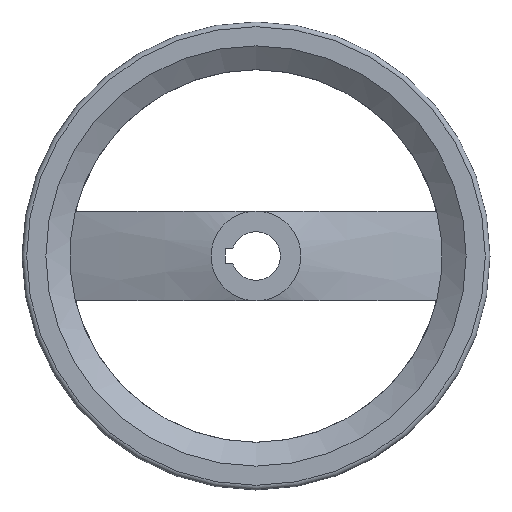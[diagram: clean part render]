
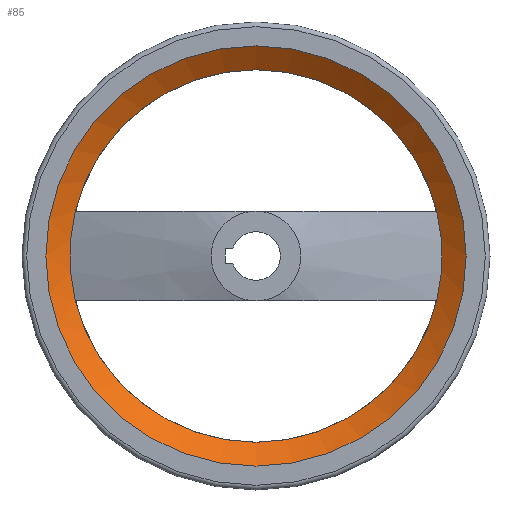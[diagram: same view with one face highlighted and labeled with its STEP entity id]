
A CAD part, left-side view. The second image highlights one B-rep face of the part: STEP entity #85.
In plain terms, the highlighted conical face has half-angle 54.129 degrees and reference radius 99.5 mm.
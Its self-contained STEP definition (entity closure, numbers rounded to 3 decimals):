
#85 = ADVANCED_FACE( '', ( #122, #123 ), #124, .F. );
#122 = FACE_OUTER_BOUND( '', #178, .T. );
#123 = FACE_BOUND( '', #179, .T. );
#124 = CONICAL_SURFACE( '', #180, 99.5, 0.945 );
#178 = EDGE_LOOP( '', ( #282 ) );
#179 = EDGE_LOOP( '', ( #283, #284, #285, #286 ) );
#180 = AXIS2_PLACEMENT_3D( '', #287, #288, #289 );
#282 = ORIENTED_EDGE( '', *, *, #388, .T. );
#283 = ORIENTED_EDGE( '', *, *, #389, .F. );
#284 = ORIENTED_EDGE( '', *, *, #390, .T. );
#285 = ORIENTED_EDGE( '', *, *, #391, .F. );
#286 = ORIENTED_EDGE( '', *, *, #392, .T. );
#287 = CARTESIAN_POINT( '', ( 37.22, 0., 0. ) );
#288 = DIRECTION( '', ( -1., 0., 0. ) );
#289 = DIRECTION( '', ( 0., 0., 1. ) );
#388 = EDGE_CURVE( '', #450, #450, #451, .T. );
#389 = EDGE_CURVE( '', #452, #406, #453, .T. );
#390 = EDGE_CURVE( '', #452, #454, #455, .F. );
#391 = EDGE_CURVE( '', #412, #454, #456, .T. );
#392 = EDGE_CURVE( '', #412, #406, #457, .F. );
#406 = VERTEX_POINT( '', #478 );
#412 = VERTEX_POINT( '', #521 );
#450 = VERTEX_POINT( '', #631 );
#451 = CIRCLE( '', #632, 112.25 );
#452 = VERTEX_POINT( '', #633 );
#453 = CIRCLE( '', #634, 99.5 );
#454 = VERTEX_POINT( '', #635 );
#455 = CIRCLE( '', #636, 99.5 );
#456 = CIRCLE( '', #637, 99.5 );
#457 = CIRCLE( '', #638, 99.5 );
#478 = CARTESIAN_POINT( '', ( 37.22, -96.562, 24. ) );
#521 = CARTESIAN_POINT( '', ( 37.22, 96.562, 24. ) );
#631 = CARTESIAN_POINT( '', ( 28., 0., 112.25 ) );
#632 = AXIS2_PLACEMENT_3D( '', #758, #759, #760 );
#633 = CARTESIAN_POINT( '', ( 37.22, -96.562, -24. ) );
#634 = AXIS2_PLACEMENT_3D( '', #761, #762, #763 );
#635 = CARTESIAN_POINT( '', ( 37.22, 96.562, -24. ) );
#636 = AXIS2_PLACEMENT_3D( '', #764, #765, #766 );
#637 = AXIS2_PLACEMENT_3D( '', #767, #768, #769 );
#638 = AXIS2_PLACEMENT_3D( '', #770, #771, #772 );
#758 = CARTESIAN_POINT( '', ( 28., 0., 0. ) );
#759 = DIRECTION( '', ( -1., 0., 0. ) );
#760 = DIRECTION( '', ( 0., 0., 1. ) );
#761 = CARTESIAN_POINT( '', ( 37.22, 0., 0. ) );
#762 = DIRECTION( '', ( -1., 0., 0. ) );
#763 = DIRECTION( '', ( 0., 0., 1. ) );
#764 = CARTESIAN_POINT( '', ( 37.22, 0., 0. ) );
#765 = DIRECTION( '', ( -1., 0., 0. ) );
#766 = DIRECTION( '', ( 0., 0., 1. ) );
#767 = CARTESIAN_POINT( '', ( 37.22, 0., 0. ) );
#768 = DIRECTION( '', ( -1., 0., 0. ) );
#769 = DIRECTION( '', ( 0., 0., 1. ) );
#770 = CARTESIAN_POINT( '', ( 37.22, 0., 0. ) );
#771 = DIRECTION( '', ( -1., 0., 0. ) );
#772 = DIRECTION( '', ( 0., 0., 1. ) );
